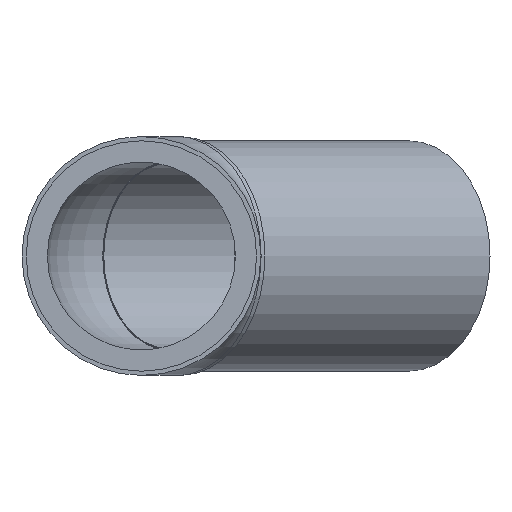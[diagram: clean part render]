
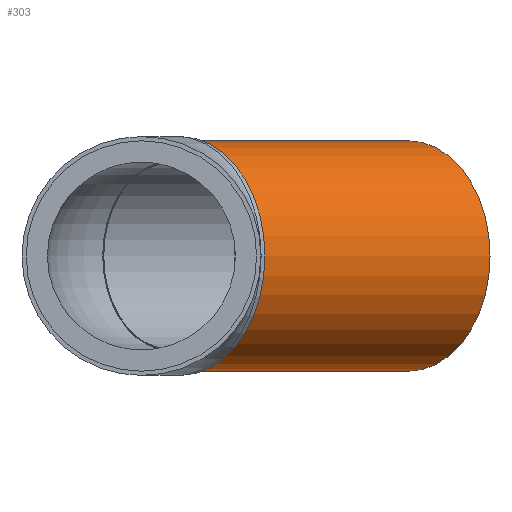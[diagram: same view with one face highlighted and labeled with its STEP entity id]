
A CAD part, front view. The second image highlights one B-rep face of the part: STEP entity #303.
In plain terms, the highlighted cylindrical face has radius 12.5 mm (diameter 25 mm), a full revolution.
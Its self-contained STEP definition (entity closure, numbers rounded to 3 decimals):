
#254=CARTESIAN_POINT('',(13.081,-4.596,0.));
#255=VERTEX_POINT('',#254);
#256=CARTESIAN_POINT('',(4.243,4.243,0.));
#257=DIRECTION('',(0.707,0.707,0.));
#258=DIRECTION('',(0.707,-0.707,0.));
#259=AXIS2_PLACEMENT_3D('',#256,#257,#258);
#260=CIRCLE('',#259,12.5);
#261=EDGE_CURVE('',#255,#255,#260,.T.);
#279=CARTESIAN_POINT('',(37.83,20.153,0.));
#280=VERTEX_POINT('',#279);
#281=CARTESIAN_POINT('',(28.991,28.991,0.));
#282=DIRECTION('',(0.707,0.707,0.));
#283=DIRECTION('',(0.707,-0.707,0.));
#284=AXIS2_PLACEMENT_3D('',#281,#282,#283);
#285=CIRCLE('',#284,12.5);
#286=EDGE_CURVE('',#280,#280,#285,.T.);
#287=ORIENTED_EDGE('',*,*,#286,.F.);
#288=CARTESIAN_POINT('',(25.456,7.778,0.));
#289=DIRECTION('',(0.707,0.707,0.));
#290=VECTOR('',#289,12.5);
#291=LINE('',#288,#290);
#292=EDGE_CURVE('',#255,#280,#291,.T.);
#293=ORIENTED_EDGE('',*,*,#292,.F.);
#294=ORIENTED_EDGE('',*,*,#261,.T.);
#295=ORIENTED_EDGE('',*,*,#292,.T.);
#296=EDGE_LOOP('',(#287,#293,#294,#295));
#297=FACE_OUTER_BOUND('',#296,.T.);
#298=CARTESIAN_POINT('',(16.617,16.617,0.));
#299=DIRECTION('',(0.707,0.707,0.));
#300=DIRECTION('',(0.707,-0.707,0.));
#301=AXIS2_PLACEMENT_3D('',#298,#299,#300);
#302=CYLINDRICAL_SURFACE('',#301,12.5);
#303=ADVANCED_FACE('',(#297),#302,.T.);
